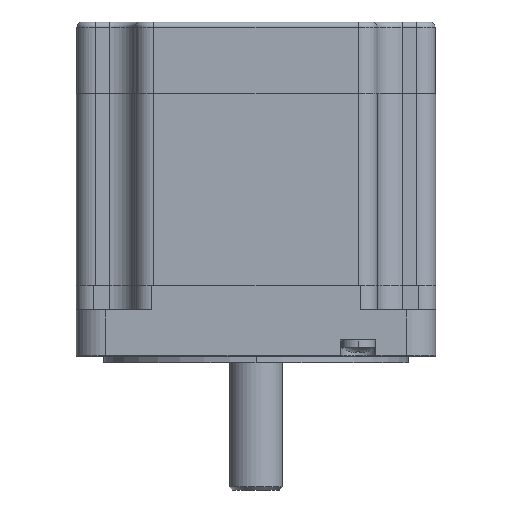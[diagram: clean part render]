
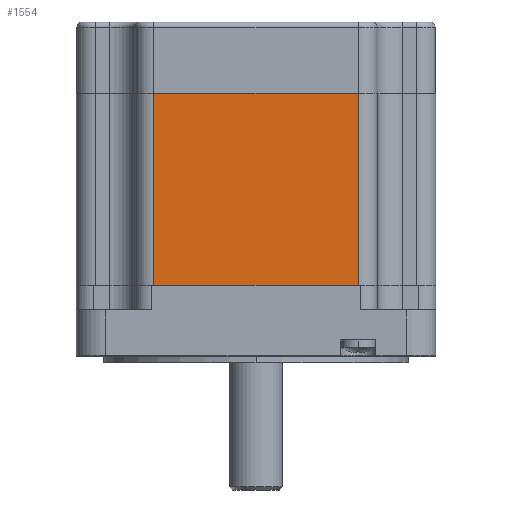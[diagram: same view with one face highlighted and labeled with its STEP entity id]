
A CAD part, left-side view. The second image highlights one B-rep face of the part: STEP entity #1554.
In plain terms, the highlighted planar face has unit normal (-1, 0, 0).
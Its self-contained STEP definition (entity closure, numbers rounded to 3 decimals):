
#359 = LINE ( 'NONE', #1136, #8318 ) ;
#540 = ORIENTED_EDGE ( 'NONE', *, *, #2633, .F. ) ;
#832 = CARTESIAN_POINT ( 'NONE',  ( -43., 24.5, -46. ) ) ;
#1136 = CARTESIAN_POINT ( 'NONE',  ( -43., -24.5, -46. ) ) ;
#1554 = ADVANCED_FACE ( 'NONE', ( #3888 ), #6008, .T. ) ;
#1622 = CARTESIAN_POINT ( 'NONE',  ( -43., -24.5, 0. ) ) ;
#1728 = ORIENTED_EDGE ( 'NONE', *, *, #7839, .T. ) ;
#1805 = CARTESIAN_POINT ( 'NONE',  ( -43., -24.5, -46. ) ) ;
#1907 = LINE ( 'NONE', #4339, #7358 ) ;
#2176 = ORIENTED_EDGE ( 'NONE', *, *, #2558, .F. ) ;
#2558 = EDGE_CURVE ( 'NONE', #5497, #4962, #6132, .T. ) ;
#2633 = EDGE_CURVE ( 'NONE', #4551, #5497, #7024, .T. ) ;
#2871 = CARTESIAN_POINT ( 'NONE',  ( -43., -24.5, 0. ) ) ;
#3160 = CARTESIAN_POINT ( 'NONE',  ( -43., 24.5, 0. ) ) ;
#3453 = VERTEX_POINT ( 'NONE', #8241 ) ;
#3697 = EDGE_LOOP ( 'NONE', ( #2176, #540, #1728, #7913 ) ) ;
#3888 = FACE_OUTER_BOUND ( 'NONE', #3697, .T. ) ;
#4006 = DIRECTION ( 'NONE',  ( 0., 0., 1. ) ) ;
#4339 = CARTESIAN_POINT ( 'NONE',  ( -43., -24.5, -46. ) ) ;
#4551 = VERTEX_POINT ( 'NONE', #7551 ) ;
#4609 = DIRECTION ( 'NONE',  ( -1., 0., 0. ) ) ;
#4692 = DIRECTION ( 'NONE',  ( 0., 0., 1. ) ) ;
#4917 = VECTOR ( 'NONE', #6386, 1000. ) ;
#4962 = VERTEX_POINT ( 'NONE', #1622 ) ;
#5497 = VERTEX_POINT ( 'NONE', #3160 ) ;
#6008 = PLANE ( 'NONE',  #8746 ) ;
#6132 = LINE ( 'NONE', #2871, #4917 ) ;
#6386 = DIRECTION ( 'NONE',  ( 0., -1., 0. ) ) ;
#6582 = DIRECTION ( 'NONE',  ( 0., 0., 1. ) ) ;
#7024 = LINE ( 'NONE', #832, #9140 ) ;
#7123 = DIRECTION ( 'NONE',  ( 0., -1., 0. ) ) ;
#7358 = VECTOR ( 'NONE', #7123, 1000. ) ;
#7551 = CARTESIAN_POINT ( 'NONE',  ( -43., 24.5, -46. ) ) ;
#7839 = EDGE_CURVE ( 'NONE', #4551, #3453, #1907, .T. ) ;
#7913 = ORIENTED_EDGE ( 'NONE', *, *, #8804, .T. ) ;
#8241 = CARTESIAN_POINT ( 'NONE',  ( -43., -24.5, -46. ) ) ;
#8318 = VECTOR ( 'NONE', #4006, 1000. ) ;
#8746 = AXIS2_PLACEMENT_3D ( 'NONE', #1805, #4609, #4692 ) ;
#8804 = EDGE_CURVE ( 'NONE', #3453, #4962, #359, .T. ) ;
#9140 = VECTOR ( 'NONE', #6582, 1000. ) ;
